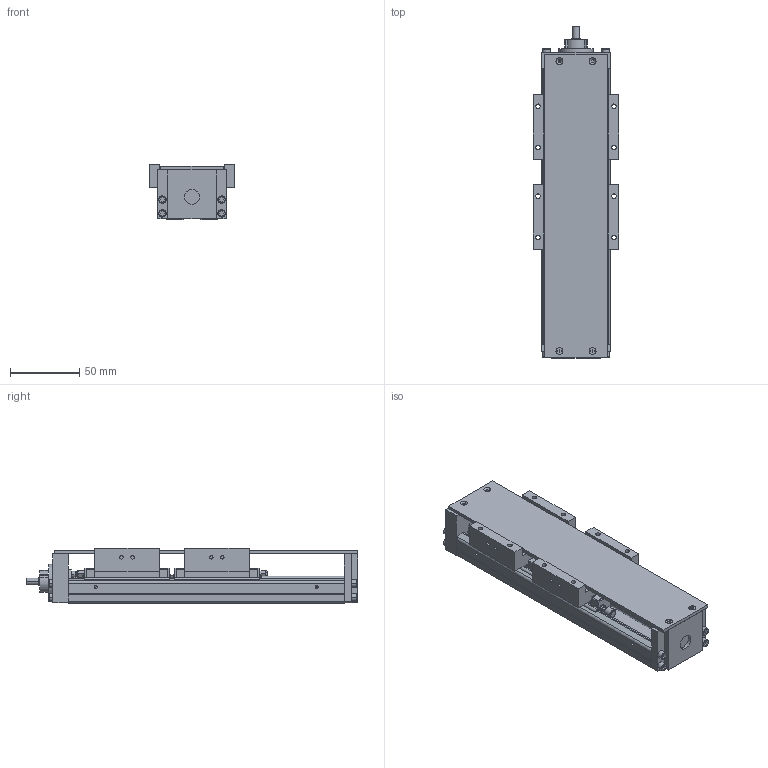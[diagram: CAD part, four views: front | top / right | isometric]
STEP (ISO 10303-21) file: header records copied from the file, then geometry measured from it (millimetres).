
FILE_DESCRIPTION(('no description'),'unknown implementation level');
FILE_NAME('KK5002P200A2H0C00_FILE_19.stp',' ',('HIWIN GmbH'),('CADClick - KiM GmbH - www.kimweb.de'),'unknown preprocess','ACIS','unknown authorization');
FILE_SCHEMA(('automotive_design'));
Length unit declared in the file: millimetre
Products named in the file (3): KK5002P200A2H0C00_FILE_1; KK50_FILE; KK5002P200A2H0C00_FILE
Bounding box: 62 x 240.5 x 40 mm (x, y, z)
Volume: 291141.7 mm3; surface area: 111367.4 mm2
Topology: 3 solids, 19 shells, 1171 faces, 2950 edges, 1871 vertices
Faces by surface type: plane 712, cylinder 321, cone 86, torus 52
Entity records: 68953 total; most frequent: CARTESIAN_POINT 6881, DIRECTION 6118, STYLED_ITEM 5957, PRESENTATION_STYLE_ASSIGNMENT 5957, COLOUR_RGB 5957, ORIENTED_EDGE 5824, EDGE_CURVE 2912, CURVE_STYLE 2912
